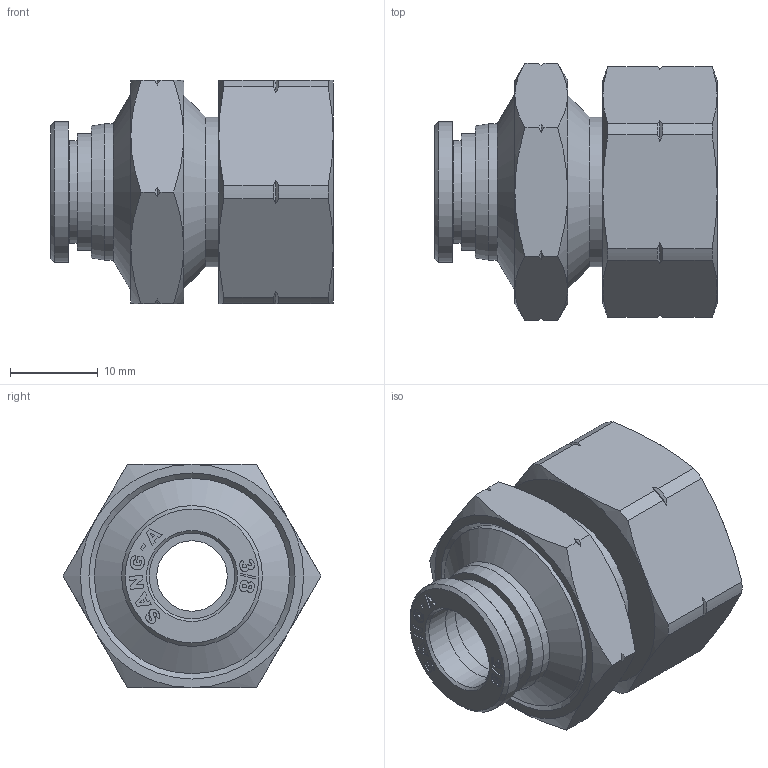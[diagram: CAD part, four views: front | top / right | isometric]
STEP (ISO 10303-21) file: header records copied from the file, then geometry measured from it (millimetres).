
FILE_DESCRIPTION((''),'2;1');
FILE_NAME('C:\Users\user0117\Desktop\김진일\홈페이지\3_8\Internet\GPMF 3_8-N02U.stp','2019-09-05T15:08:54',('user0117'),(''),'Autodesk Inventor 2013','Autodesk Inventor 2013','');
FILE_SCHEMA(('AUTOMOTIVE_DESIGN { 1 0 10303 214 1 1 1 1 }'));
Length unit declared in the file: millimetre
Products named in the file (6): GPMF 3_8-N02U; GPMF BODY 3_8-N02(BRASS); G-COLLAR 3-8C(ROUND); COLLAR G3-8C; SLEEVE G3-8R; NMM NUT 3_8-UNF7_8
Assembly tree (5 placements, depth 3):
  GPMF 3_8-N02U
    GPMF BODY 3_8-N02(BRASS)
    G-COLLAR 3-8C(ROUND)
      COLLAR G3-8C
      SLEEVE G3-8R
    NMM NUT 3_8-UNF7_8
Bounding box: 32.1 x 29.33 x 25.4 mm (x, y, z)
Volume: 10611 mm3; surface area: 5912.1 mm2
Topology: 4 solids, 4 shells, 410 faces, 1124 edges, 739 vertices
Faces by surface type: plane 290, cone 58, bspline 35, cylinder 27
Full cylindrical faces by diameter (mm): 8 x1, 9.75 x3, 11.7 x1, 13.3 x1, 15.5 x1, 16 x1, 17 x1, 22.225 x2
Entity records: 13127 total; most frequent: CARTESIAN_POINT 3072, ORIENTED_EDGE 2198, DIRECTION 1804, EDGE_CURVE 1099, VECTOR 834, LINE 834, VERTEX_POINT 735, AXIS2_PLACEMENT_3D 485
